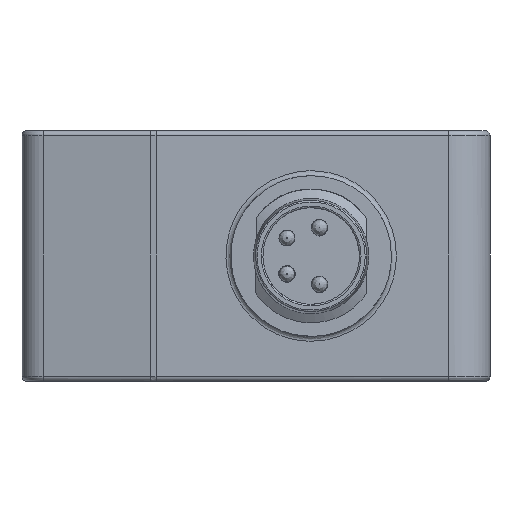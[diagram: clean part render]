
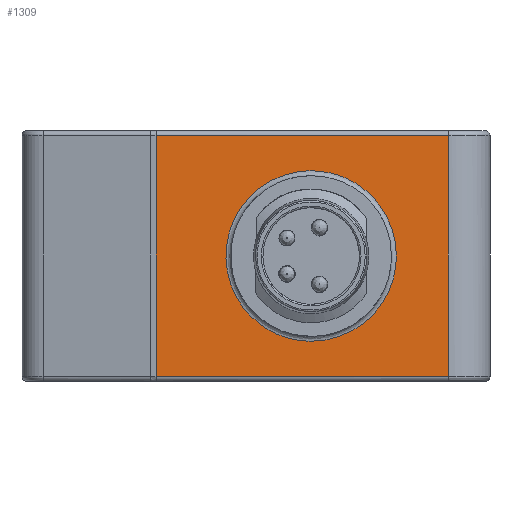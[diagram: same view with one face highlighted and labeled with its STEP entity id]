
A CAD part, front view. The second image highlights one B-rep face of the part: STEP entity #1309.
In plain terms, the highlighted free-form (B-spline) face has degree [1, 1] with [2, 2] control points.
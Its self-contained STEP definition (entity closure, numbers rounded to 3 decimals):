
#845=FACE_BOUND('',#1940,.T.);
#846=FACE_BOUND('',#1941,.T.);
#1309=ADVANCED_FACE('',(#845,#846),#1428,.T.);
#1428=B_SPLINE_SURFACE_WITH_KNOTS('',1,1,((#9980,#9981),(#9982,#9983)),
 .UNSPECIFIED.,.F.,.F.,.F.,(2,2),(2,2),(0.,1.),(0.,1.),.UNSPECIFIED.);
#1940=EDGE_LOOP('',(#3471,#3472));
#1941=EDGE_LOOP('',(#3473,#3474,#3475,#3476));
#2284=(
BOUNDED_CURVE()
B_SPLINE_CURVE(3,(#9967,#9968,#9969,#9970),.UNSPECIFIED.,.F.,.F.)
B_SPLINE_CURVE_WITH_KNOTS((4,4),(0.,1.),.UNSPECIFIED.)
CURVE()
GEOMETRIC_REPRESENTATION_ITEM()
RATIONAL_B_SPLINE_CURVE((0.957,0.638,0.478,
0.478))
REPRESENTATION_ITEM('')
);
#2285=(
BOUNDED_CURVE()
B_SPLINE_CURVE(3,(#9973,#9974,#9975,#9976,#9977,#9978,#9979),
 .UNSPECIFIED.,.F.,.F.)
B_SPLINE_CURVE_WITH_KNOTS((4,3,4),(0.,0.333,1.),
 .UNSPECIFIED.)
CURVE()
GEOMETRIC_REPRESENTATION_ITEM()
RATIONAL_B_SPLINE_CURVE((0.478,0.478,0.638,
0.957,0.319,0.319,0.957))
REPRESENTATION_ITEM('')
);
#3471=ORIENTED_EDGE('',*,*,#4615,.F.);
#3472=ORIENTED_EDGE('',*,*,#4616,.F.);
#3473=ORIENTED_EDGE('',*,*,#4613,.T.);
#3474=ORIENTED_EDGE('',*,*,#4614,.T.);
#3475=ORIENTED_EDGE('',*,*,#4611,.T.);
#3476=ORIENTED_EDGE('',*,*,#4612,.T.);
#3974=VERTEX_POINT('',#9803);
#3976=VERTEX_POINT('',#9839);
#3978=VERTEX_POINT('',#9875);
#3979=VERTEX_POINT('',#9900);
#3980=VERTEX_POINT('',#9971);
#3981=VERTEX_POINT('',#9972);
#4611=EDGE_CURVE('',#3978,#3974,#4967,.T.);
#4612=EDGE_CURVE('',#3974,#3976,#4968,.T.);
#4613=EDGE_CURVE('',#3976,#3979,#4969,.T.);
#4614=EDGE_CURVE('',#3979,#3978,#4970,.T.);
#4615=EDGE_CURVE('',#3980,#3981,#2284,.T.);
#4616=EDGE_CURVE('',#3981,#3980,#2285,.T.);
#4967=B_SPLINE_CURVE_WITH_KNOTS('',1,(#9927,#9928),.UNSPECIFIED.,.F.,.F.,
(2,2),(0.,1.),.UNSPECIFIED.);
#4968=B_SPLINE_CURVE_WITH_KNOTS('',1,(#9937,#9938),.UNSPECIFIED.,.F.,.F.,
(2,2),(0.,1.),.UNSPECIFIED.);
#4969=B_SPLINE_CURVE_WITH_KNOTS('',1,(#9947,#9948),.UNSPECIFIED.,.F.,.F.,
(2,2),(0.,1.),.UNSPECIFIED.);
#4970=B_SPLINE_CURVE_WITH_KNOTS('',1,(#9957,#9958),.UNSPECIFIED.,.F.,.F.,
(2,2),(0.,1.),.UNSPECIFIED.);
#9803=CARTESIAN_POINT('',(-5.981,-21.4,14.7));
#9839=CARTESIAN_POINT('',(-5.981,-21.4,0.3));
#9875=CARTESIAN_POINT('',(11.5,-21.4,14.7));
#9900=CARTESIAN_POINT('',(11.5,-21.4,0.3));
#9927=CARTESIAN_POINT('',(11.5,-21.4,14.7));
#9928=CARTESIAN_POINT('',(-5.981,-21.4,14.7));
#9937=CARTESIAN_POINT('',(-5.981,-21.4,14.7));
#9938=CARTESIAN_POINT('',(-5.981,-21.4,0.3));
#9947=CARTESIAN_POINT('',(-5.981,-21.4,0.3));
#9948=CARTESIAN_POINT('',(11.5,-21.4,0.3));
#9957=CARTESIAN_POINT('',(11.5,-21.4,0.3));
#9958=CARTESIAN_POINT('',(11.5,-21.4,14.7));
#9967=CARTESIAN_POINT('',(3.3,-21.4,2.4));
#9968=CARTESIAN_POINT('',(5.85,-21.4,2.4));
#9969=CARTESIAN_POINT('',(8.4,-21.4,4.1));
#9970=CARTESIAN_POINT('',(8.4,-21.4,7.5));
#9971=CARTESIAN_POINT('',(3.3,-21.4,2.4));
#9972=CARTESIAN_POINT('',(8.4,-21.4,7.5));
#9973=CARTESIAN_POINT('',(8.4,-21.4,7.5));
#9974=CARTESIAN_POINT('',(8.4,-21.4,10.9));
#9975=CARTESIAN_POINT('',(5.85,-21.4,12.6));
#9976=CARTESIAN_POINT('',(3.3,-21.4,12.6));
#9977=CARTESIAN_POINT('',(-6.9,-21.4,12.6));
#9978=CARTESIAN_POINT('',(-6.9,-21.4,2.4));
#9979=CARTESIAN_POINT('',(3.3,-21.4,2.4));
#9980=CARTESIAN_POINT('',(-5.981,-21.4,0.3));
#9981=CARTESIAN_POINT('',(-5.981,-21.4,14.7));
#9982=CARTESIAN_POINT('',(11.5,-21.4,0.3));
#9983=CARTESIAN_POINT('',(11.5,-21.4,14.7));
